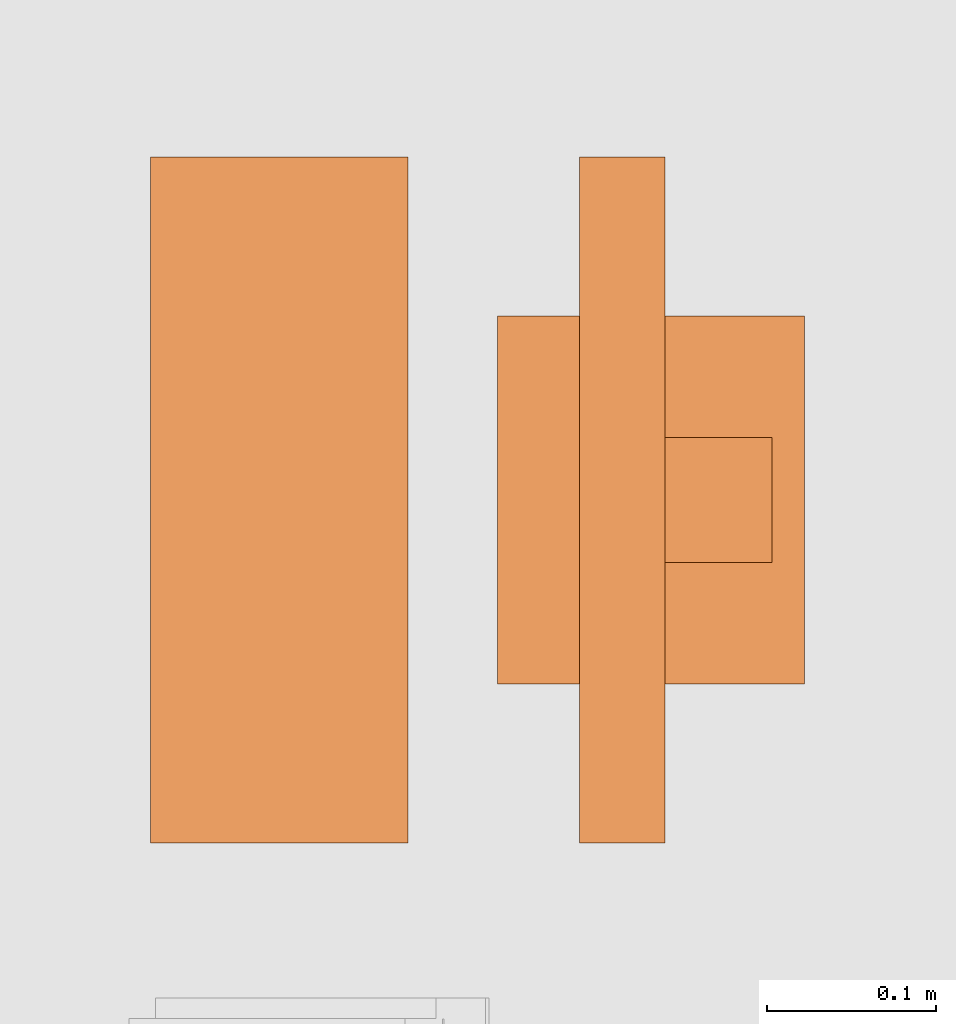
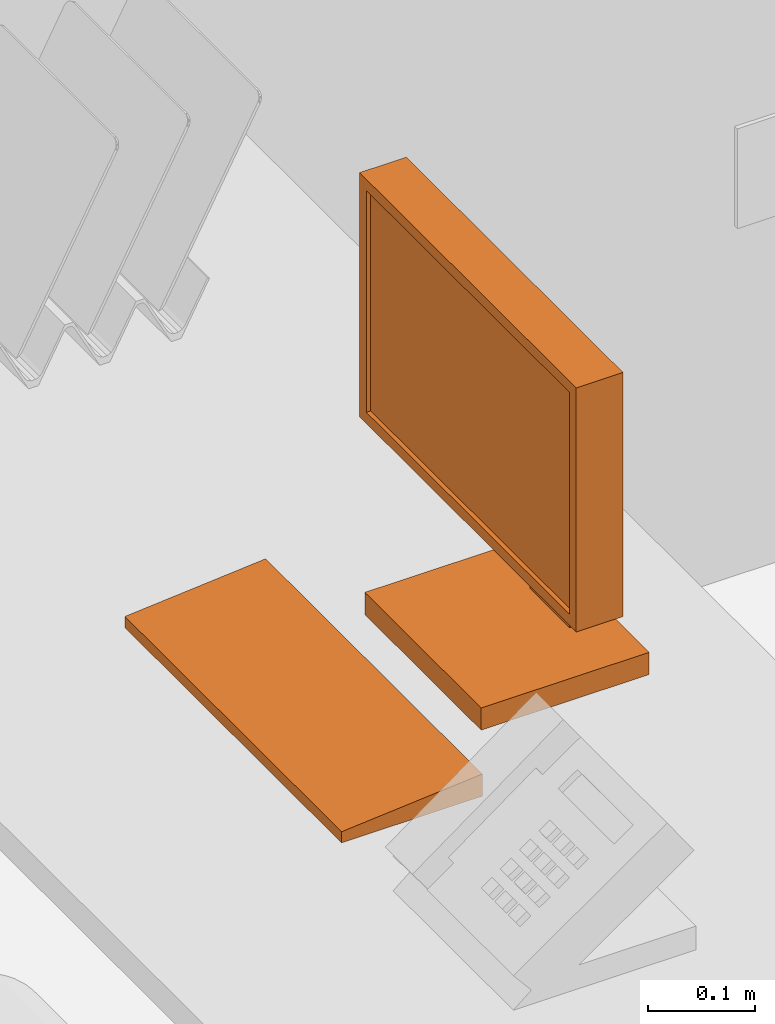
# One storey, part 10 of 10: 1 proxy.
"""IFC2X3 building model written with IfcOpenShell, lengths in feet."""

from ifc_helpers import new_model, entity, si_unit, converted_unit, derived_unit, direction, frame, origin, place, context, subcontext, project, spatial, faceted_brep, source, transform, mapped, type_object, type_shapes, element, save


model = new_model("IFC2X3")

# Units and contexts
model_context = context("Model", 3, precision=0.0001, world=origin(), true_north=direction((6.12303176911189e-17, 1.0)))
body_context = subcontext(model_context, "Body", "Model", "MODEL_VIEW")
ifc_project = project(units=[converted_unit("LENGTHUNIT", "FOOT", entity("IfcRatioMeasure", 0.3048), si_unit("LENGTHUNIT", "METRE"), dimensions=[1, 0, 0, 0, 0, 0, 0]), converted_unit("AREAUNIT", "SQUARE FOOT", entity("IfcRatioMeasure", 0.09290304), si_unit("AREAUNIT", "SQUARE_METRE"), dimensions=[2, 0, 0, 0, 0, 0, 0]), converted_unit("VOLUMEUNIT", "CUBIC FOOT", entity("IfcRatioMeasure", 0.028316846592), si_unit("VOLUMEUNIT", "CUBIC_METRE"), dimensions=[3, 0, 0, 0, 0, 0, 0]), converted_unit("PLANEANGLEUNIT", "DEGREE", entity("IfcRatioMeasure", 0.0174532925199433), si_unit("PLANEANGLEUNIT", "RADIAN"), dimensions=[0, 0, 0, 0, 0, 0, 0]), si_unit("MASSUNIT", "GRAM", prefix="KILO"), derived_unit("MASSDENSITYUNIT", [(si_unit("MASSUNIT", "GRAM", prefix="KILO"), 1), (si_unit("LENGTHUNIT", "METRE"), -3)]), si_unit("TIMEUNIT", "SECOND"), si_unit("FREQUENCYUNIT", "HERTZ"), si_unit("THERMODYNAMICTEMPERATUREUNIT", "DEGREE_CELSIUS"), derived_unit("THERMALTRANSMITTANCEUNIT", [(si_unit("MASSUNIT", "GRAM", prefix="KILO"), 1), (si_unit("THERMODYNAMICTEMPERATUREUNIT", "KELVIN"), -1), (si_unit("TIMEUNIT", "SECOND"), -3)]), derived_unit("VOLUMETRICFLOWRATEUNIT", [(si_unit("LENGTHUNIT", "METRE"), 3), (si_unit("TIMEUNIT", "SECOND"), -1)]), si_unit("ELECTRICCURRENTUNIT", "AMPERE"), si_unit("ELECTRICVOLTAGEUNIT", "VOLT"), si_unit("POWERUNIT", "WATT"), si_unit("FORCEUNIT", "NEWTON"), si_unit("ILLUMINANCEUNIT", "LUX"), si_unit("LUMINOUSFLUXUNIT", "LUMEN"), si_unit("LUMINOUSINTENSITYUNIT", "CANDELA"), derived_unit("USERDEFINED", [(si_unit("MASSUNIT", "GRAM", prefix="KILO"), -1), (si_unit("LENGTHUNIT", "METRE"), -2), (si_unit("TIMEUNIT", "SECOND"), 3), (si_unit("LUMINOUSFLUXUNIT", "LUMEN"), 1)]), derived_unit("LINEARVELOCITYUNIT", [(si_unit("LENGTHUNIT", "METRE"), 1), (si_unit("TIMEUNIT", "SECOND"), -1)]), si_unit("PRESSUREUNIT", "PASCAL"), derived_unit("USERDEFINED", [(si_unit("LENGTHUNIT", "METRE"), -2), (si_unit("MASSUNIT", "GRAM", prefix="KILO"), 1), (si_unit("TIMEUNIT", "SECOND"), -2)])], contexts=[model_context])

# Site, building, storey, space
site_placement = place(None, origin())
site = spatial("IfcSite", under=ifc_project, at=site_placement, Name="Default", CompositionType="ELEMENT")
building_placement = place(site_placement, origin())
building = spatial("IfcBuilding", under=site, at=building_placement, Name="OUTPATIENT / PACT CLINIC (Ch. 265)", CompositionType="ELEMENT")
storey_placement = place(building_placement, origin())
storey = spatial("IfcBuildingStorey", under=building, at=storey_placement, Name="DATUM", CompositionType="ELEMENT", Elevation=0.0)
space_placement = place(storey_placement, origin())
space = spatial("IfcSpace", under=storey, at=space_placement, Name="OFDC2", CompositionType="ELEMENT", InteriorOrExteriorSpace="INTERNAL")

# Proxy
building_element_proxy_type = type_object("IfcBuildingElementProxyType", Name="M1801 - Computer with Flat Panel Monitor", PredefinedType="NOTDEFINED")
shared_shape = source(origin(), body_context, "Body", "Brep", [
    faceted_brep([(0.666666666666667, -0.5625, 0.0), (0.666666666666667, -0.0624999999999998, 0.0), (0.666666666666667, -0.0624999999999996, 0.0833333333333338), (0.666666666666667, -0.5625, 0.0416666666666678), (-0.666666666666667, -0.5625, 0.0), (-0.666666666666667, -0.5625, 0.0416666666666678), (-0.666666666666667, -0.0624999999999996, 0.0833333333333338), (-0.666666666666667, -0.0624999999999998, 0.0)], [[[0, 1, 2, 3]], [[4, 5, 6, 7]], [[1, 0, 4, 7]], [[2, 1, 7, 6]], [[3, 2, 6, 5]], [[0, 3, 5, 4]]]),
    faceted_brep([(0.666666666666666, 0.437223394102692, 1.41666666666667), (-0.666666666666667, 0.437223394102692, 1.41666666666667), (-0.666666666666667, 0.271109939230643, 1.41666666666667), (0.666666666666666, 0.271109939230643, 1.41666666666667), (0.666666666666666, 0.437223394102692, 0.500000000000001), (0.666666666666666, 0.271109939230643, 0.500000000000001), (-0.666666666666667, 0.271109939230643, 0.500000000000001), (-0.666666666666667, 0.437223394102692, 0.500000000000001), (-0.625, 0.271109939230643, 1.375), (0.625, 0.271109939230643, 1.375), (0.625, 0.271109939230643, 0.541666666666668), (-0.625, 0.271109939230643, 0.541666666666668), (0.625, 0.286812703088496, 1.375), (-0.625, 0.286812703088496, 1.375), (0.625, 0.286812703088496, 0.541666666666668), (-0.625, 0.286812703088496, 0.541666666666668)], [[[0, 1, 2, 3]], [[4, 5, 6, 7]], [[1, 0, 4, 7]], [[2, 1, 7, 6]], [[3, 2, 6, 5], [8, 9, 10, 11]], [[0, 3, 5, 4]], [[12, 9, 8, 13]], [[14, 15, 11, 10]], [[12, 13, 15, 14]], [[13, 8, 11, 15]], [[9, 12, 14, 10]]]),
    faceted_brep([(0.358011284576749, 0.111770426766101, 0.0833333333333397), (0.358011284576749, 0.111770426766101, 0.0), (0.358011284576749, 0.708333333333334, 0.0), (0.358011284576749, 0.708333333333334, 0.0833333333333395), (-0.358011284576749, 0.708333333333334, 0.0833333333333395), (-0.358011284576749, 0.708333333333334, 0.0), (-0.358011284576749, 0.111770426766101, 0.0), (-0.358011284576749, 0.111770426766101, 0.0833333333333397), (0.12128795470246, 0.645556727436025, 0.104166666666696), (0.12128795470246, 0.645556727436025, 0.0833333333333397), (-0.12128795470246, 0.645556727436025, 0.0833333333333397), (-0.12128795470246, 0.645556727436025, 0.104166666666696), (0.12128795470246, 0.645556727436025, 0.958333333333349), (-0.12128795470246, 0.645556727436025, 0.958333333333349), (0.12128795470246, 0.437223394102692, 0.958333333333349), (-0.12128795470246, 0.437223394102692, 0.958333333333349), (0.12128795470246, 0.437223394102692, 0.791666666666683), (-0.12128795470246, 0.437223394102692, 0.791666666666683), (0.12128795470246, 0.562223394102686, 0.791666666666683), (-0.12128795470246, 0.562223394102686, 0.791666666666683), (0.12128795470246, 0.562223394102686, 0.0833333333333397), (-0.12128795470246, 0.562223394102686, 0.0833333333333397)], [[[0, 1, 2, 3]], [[4, 5, 6, 7]], [[8, 9, 10, 11]], [[12, 8, 11, 13]], [[14, 12, 13, 15]], [[16, 14, 15, 17]], [[18, 16, 17, 19]], [[20, 18, 19, 21]], [[0, 3, 4, 7], [9, 20, 21, 10]], [[1, 0, 7, 6]], [[2, 1, 6, 5]], [[3, 2, 5, 4]], [[20, 9, 8, 12, 14, 16, 18]], [[10, 21, 19, 17, 15, 13, 11]]]),
])
type_shapes(building_element_proxy_type, [shared_shape])
proxy_placement = place(space_placement, frame((-71.797030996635, -854.648784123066, 2.41666666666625), z_axis=(0.0, 0.0, 1.0), x_axis=(0.0, -1.0, 0.0)))
element("IfcBuildingElementProxy", 1, at=proxy_placement, inside=space, type_object=building_element_proxy_type, Name="M1801 - Computer with Flat Panel Monitor:M1801 - Computer with Flat Panel Monitor", ObjectType="M1801 - Computer with Flat Panel Monitor", context=body_context, shape_type="MappedRepresentation", body=[
    mapped(shared_shape, transform((0.0, 0.0, 0.0), scale=1.0)),
])

save(model, "model.ifc")
